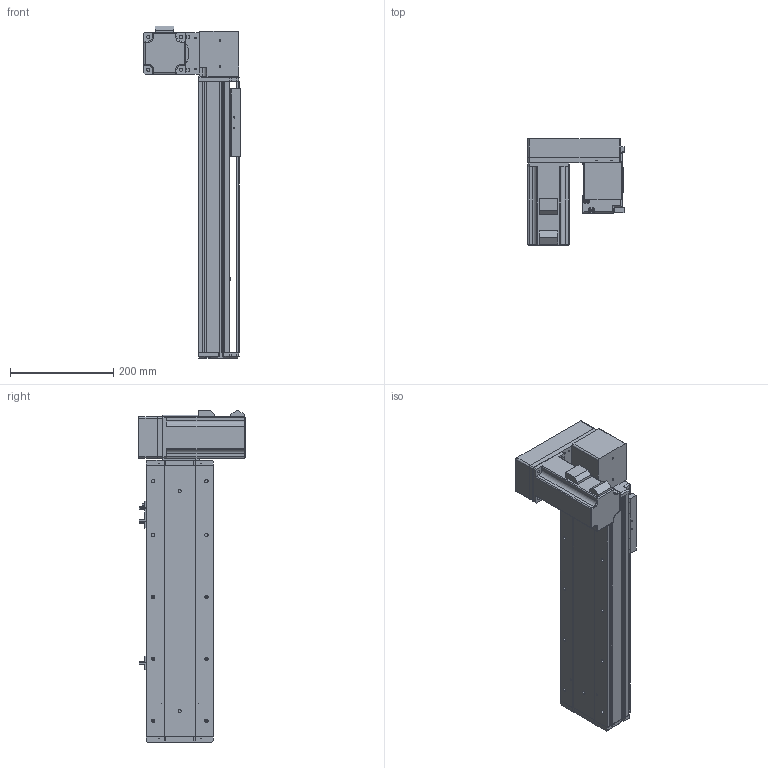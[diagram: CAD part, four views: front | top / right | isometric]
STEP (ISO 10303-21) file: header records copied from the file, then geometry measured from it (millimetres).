
FILE_DESCRIPTION (( 'STEP AP214' ), '1' );
FILE_NAME ('KSD130B-S300-MRD-CM.STEP', '2019-09-21T09:35:37', ( '微软用户' ), ( '微软中国' ), 'SwSTEP 2.0', 'SolidWorks 2014', '' );
FILE_SCHEMA (( 'AUTOMOTIVE_DESIGN' ));
Length unit declared in the file: millimetre
Products named in the file (12): 侂狟750W侜督; 130宽模组保护罩上下左右折-同步带; 130宽模组马达安装板连板上下折丝杆同步带; U倰嫖萇EEㄜSX672; 覜茼え100遵圉猾敕; 130宽盖板半封闭同步带-300行程; 130宽马达安装板同步带右-改镜向_默认<按加工>; 130宽马达安装板同步带半封闭; 130宽同步带安装座半封闭; 130宽端盖同步带半封闭; 130宽底板半封闭同步带-300行程; KSD130B-S300-MRD-CM
Assembly tree (13 placements, depth 2):
  KSD130B-S300-MRD-CM
    130宽底板半封闭同步带-300行程
    130宽端盖同步带半封闭
    130宽同步带安装座半封闭
    130宽马达安装板同步带半封闭
    130宽马达安装板同步带右-改镜向_默认<按加工>
    130宽盖板半封闭同步带-300行程
    覜茼え100遵圉猾敕
    U倰嫖萇EEㄜSX672  x3
    130宽模组马达安装板连板上下折丝杆同步带
    130宽模组保护罩上下左右折-同步带
    侂狟750W侜督
Bounding box: 186 x 206.5 x 643 mm (x, y, z)
Volume: 3200149.2 mm3; surface area: 782408.7 mm2
Topology: 13 solids, 13 shells, 1393 faces, 3876 edges, 2480 vertices
Faces by surface type: cylinder 634, plane 621, cone 122, torus 8, sphere 8
Entity records: 43491 total; most frequent: CARTESIAN_POINT 7675, DIRECTION 6776, ORIENTED_EDGE 6472, EDGE_CURVE 3236, AXIS2_PLACEMENT_3D 2441, VERTEX_POINT 2104, LINE 1894, VECTOR 1894
